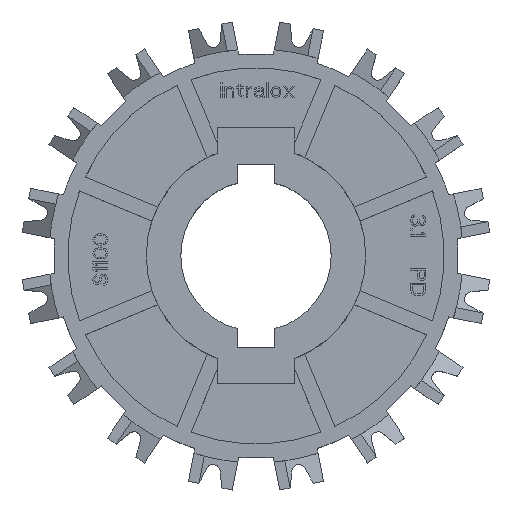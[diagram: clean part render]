
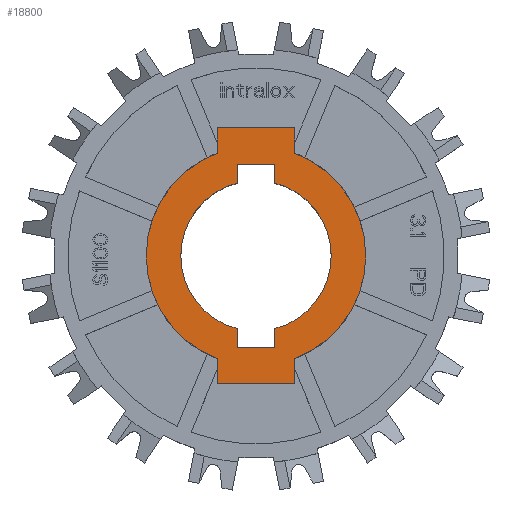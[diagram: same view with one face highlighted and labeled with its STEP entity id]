
A CAD part, top view. The second image highlights one B-rep face of the part: STEP entity #18800.
In plain terms, the highlighted planar face has unit normal (0, 0, 1).
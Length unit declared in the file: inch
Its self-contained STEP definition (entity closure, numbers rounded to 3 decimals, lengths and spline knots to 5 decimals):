
#6027=CARTESIAN_POINT('',(0.,0.,0.49));
#6028=DIRECTION('',(0.,0.,1.));
#6029=DIRECTION('',(-0.351,0.936,0.));
#6030=AXIS2_PLACEMENT_3D('',#6027,#6028,#6029);
#6032=DIRECTION('',(0.,-1.,0.));
#6033=VECTOR('',#6032,0.16739);
#6034=CARTESIAN_POINT('',(-0.256,0.8505,0.49));
#6035=LINE('',#6034,#6033);
#6036=DIRECTION('',(-1.,0.,0.));
#6037=VECTOR('',#6036,0.512);
#6038=CARTESIAN_POINT('',(0.256,0.8505,0.49));
#6039=LINE('',#6038,#6037);
#6040=DIRECTION('',(0.,1.,0.));
#6041=VECTOR('',#6040,0.16739);
#6042=CARTESIAN_POINT('',(0.256,0.68311,0.49));
#6043=LINE('',#6042,#6041);
#6044=CARTESIAN_POINT('',(0.,0.,0.49));
#6045=DIRECTION('',(0.,0.,1.));
#6046=DIRECTION('',(0.351,-0.936,0.));
#6047=AXIS2_PLACEMENT_3D('',#6044,#6045,#6046);
#6049=DIRECTION('',(0.,1.,0.));
#6050=VECTOR('',#6049,0.16739);
#6051=CARTESIAN_POINT('',(0.256,-0.8505,0.49));
#6052=LINE('',#6051,#6050);
#6053=DIRECTION('',(1.,0.,0.));
#6054=VECTOR('',#6053,0.512);
#6055=CARTESIAN_POINT('',(-0.256,-0.8505,0.49));
#6056=LINE('',#6055,#6054);
#6057=DIRECTION('',(0.,-1.,0.));
#6058=VECTOR('',#6057,0.16739);
#6059=CARTESIAN_POINT('',(-0.256,-0.68311,0.49));
#6060=LINE('',#6059,#6058);
#6061=DIRECTION('',(0.,-1.,0.));
#6062=VECTOR('',#6061,0.125);
#6063=CARTESIAN_POINT('',(-0.125,0.60912,0.49));
#6064=LINE('',#6063,#6062);
#6065=CARTESIAN_POINT('',(0.,0.,0.49));
#6066=DIRECTION('',(0.,0.,1.));
#6067=DIRECTION('',(-0.25,0.968,0.));
#6068=AXIS2_PLACEMENT_3D('',#6065,#6066,#6067);
#6070=DIRECTION('',(0.,-1.,0.));
#6071=VECTOR('',#6070,0.125);
#6072=CARTESIAN_POINT('',(-0.125,-0.48412,0.49));
#6073=LINE('',#6072,#6071);
#6074=DIRECTION('',(1.,0.,0.));
#6075=VECTOR('',#6074,0.25);
#6076=CARTESIAN_POINT('',(-0.125,-0.60912,0.49));
#6077=LINE('',#6076,#6075);
#6078=DIRECTION('',(0.,1.,0.));
#6079=VECTOR('',#6078,0.125);
#6080=CARTESIAN_POINT('',(0.125,-0.60912,0.49));
#6081=LINE('',#6080,#6079);
#6082=CARTESIAN_POINT('',(0.,0.,0.49));
#6083=DIRECTION('',(0.,0.,1.));
#6084=DIRECTION('',(0.25,-0.968,0.));
#6085=AXIS2_PLACEMENT_3D('',#6082,#6083,#6084);
#6087=DIRECTION('',(0.,1.,0.));
#6088=VECTOR('',#6087,0.125);
#6089=CARTESIAN_POINT('',(0.125,0.48412,0.49));
#6090=LINE('',#6089,#6088);
#6091=DIRECTION('',(-1.,0.,0.));
#6092=VECTOR('',#6091,0.25);
#6093=CARTESIAN_POINT('',(0.125,0.60912,0.49));
#6094=LINE('',#6093,#6092);
#10805=CARTESIAN_POINT('',(-0.256,0.68311,0.49));
#10806=CARTESIAN_POINT('',(-0.256,-0.68311,0.49));
#10807=VERTEX_POINT('',#10805);
#10808=VERTEX_POINT('',#10806);
#10809=CARTESIAN_POINT('',(-0.256,-0.8505,0.49));
#10810=VERTEX_POINT('',#10809);
#10811=CARTESIAN_POINT('',(0.256,-0.8505,0.49));
#10812=VERTEX_POINT('',#10811);
#10813=CARTESIAN_POINT('',(0.256,-0.68311,0.49));
#10814=VERTEX_POINT('',#10813);
#10815=CARTESIAN_POINT('',(0.256,0.68311,0.49));
#10816=VERTEX_POINT('',#10815);
#10817=CARTESIAN_POINT('',(0.256,0.8505,0.49));
#10818=VERTEX_POINT('',#10817);
#10819=CARTESIAN_POINT('',(-0.256,0.8505,0.49));
#10820=VERTEX_POINT('',#10819);
#10997=CARTESIAN_POINT('',(-0.125,0.60912,0.49));
#10998=CARTESIAN_POINT('',(-0.125,0.48412,0.49));
#10999=VERTEX_POINT('',#10997);
#11000=VERTEX_POINT('',#10998);
#11001=CARTESIAN_POINT('',(-0.125,-0.48412,0.49));
#11002=VERTEX_POINT('',#11001);
#11003=CARTESIAN_POINT('',(-0.125,-0.60912,0.49));
#11004=VERTEX_POINT('',#11003);
#11005=CARTESIAN_POINT('',(0.125,-0.60912,0.49));
#11006=VERTEX_POINT('',#11005);
#11007=CARTESIAN_POINT('',(0.125,-0.48412,0.49));
#11008=VERTEX_POINT('',#11007);
#11009=CARTESIAN_POINT('',(0.125,0.48412,0.49));
#11010=VERTEX_POINT('',#11009);
#11011=CARTESIAN_POINT('',(0.125,0.60912,0.49));
#11012=VERTEX_POINT('',#11011);
#18766=CARTESIAN_POINT('',(0.,0.,0.49));
#18767=DIRECTION('',(0.,0.,1.));
#18768=DIRECTION('',(1.,0.,0.));
#18769=AXIS2_PLACEMENT_3D('',#18766,#18767,#18768);
#18770=PLANE('',#18769);
#18771=ORIENTED_EDGE('',*,*,#16611,.F.);
#18772=ORIENTED_EDGE('',*,*,#18699,.F.);
#18774=ORIENTED_EDGE('',*,*,#18773,.F.);
#18775=ORIENTED_EDGE('',*,*,#18585,.F.);
#18776=ORIENTED_EDGE('',*,*,#18308,.F.);
#18777=ORIENTED_EDGE('',*,*,#18262,.F.);
#18778=ORIENTED_EDGE('',*,*,#18760,.F.);
#18779=ORIENTED_EDGE('',*,*,#18147,.F.);
#18780=EDGE_LOOP('',(#18771,#18772,#18774,#18775,#18776,#18777,#18778,#18779));
#18781=FACE_OUTER_BOUND('',#18780,.F.);
#18783=ORIENTED_EDGE('',*,*,#18782,.T.);
#18785=ORIENTED_EDGE('',*,*,#18784,.T.);
#18787=ORIENTED_EDGE('',*,*,#18786,.T.);
#18789=ORIENTED_EDGE('',*,*,#18788,.T.);
#18791=ORIENTED_EDGE('',*,*,#18790,.T.);
#18793=ORIENTED_EDGE('',*,*,#18792,.T.);
#18795=ORIENTED_EDGE('',*,*,#18794,.T.);
#18797=ORIENTED_EDGE('',*,*,#18796,.T.);
#18798=EDGE_LOOP('',(#18783,#18785,#18787,#18789,#18791,#18793,#18795,#18797));
#18799=FACE_BOUND('',#18798,.F.);
#18800=ADVANCED_FACE('',(#18781,#18799),#18770,.T.);
#6031=CIRCLE('',#6030,0.7295);
#6048=CIRCLE('',#6047,0.7295);
#6069=CIRCLE('',#6068,0.5);
#6086=CIRCLE('',#6085,0.5);
#16611=EDGE_CURVE('',#10807,#10808,#6031,.T.);
#18147=EDGE_CURVE('',#10808,#10810,#6060,.T.);
#18262=EDGE_CURVE('',#10812,#10814,#6052,.T.);
#18308=EDGE_CURVE('',#10814,#10816,#6048,.T.);
#18585=EDGE_CURVE('',#10816,#10818,#6043,.T.);
#18699=EDGE_CURVE('',#10820,#10807,#6035,.T.);
#18760=EDGE_CURVE('',#10810,#10812,#6056,.T.);
#18773=EDGE_CURVE('',#10818,#10820,#6039,.T.);
#18782=EDGE_CURVE('',#10999,#11000,#6064,.T.);
#18784=EDGE_CURVE('',#11000,#11002,#6069,.T.);
#18786=EDGE_CURVE('',#11002,#11004,#6073,.T.);
#18788=EDGE_CURVE('',#11004,#11006,#6077,.T.);
#18790=EDGE_CURVE('',#11006,#11008,#6081,.T.);
#18792=EDGE_CURVE('',#11008,#11010,#6086,.T.);
#18794=EDGE_CURVE('',#11010,#11012,#6090,.T.);
#18796=EDGE_CURVE('',#11012,#10999,#6094,.T.);
